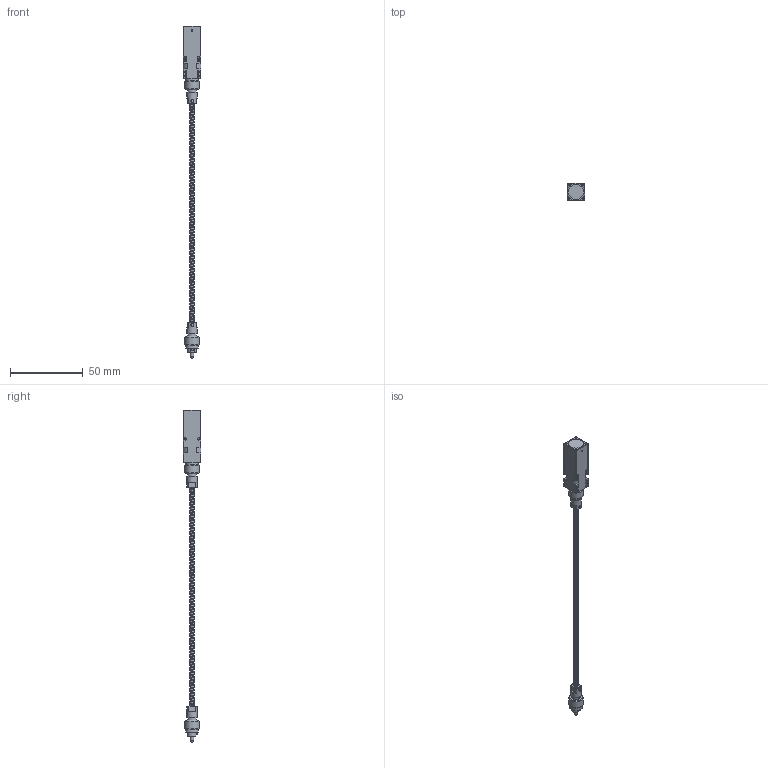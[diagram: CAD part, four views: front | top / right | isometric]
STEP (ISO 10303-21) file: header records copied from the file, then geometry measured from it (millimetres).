
FILE_DESCRIPTION(/* description */ ('IFS2407-2HT/VAC'),/* implementation_level */ '2;1');
FILE_NAME(/* name */ '104317_IFS2407-2HT-VAC_step.stp',/* time_stamp */ '2025-11-21T13:21:02+01:00',/* author */ ('S.Flämig'),/* organization */ (''),/* preprocessor_version */ 'ST-DEVELOPER v20.1',/* originating_system */ 'Autodesk Inventor 2026',/* authorisation */ '');
FILE_SCHEMA (('AUTOMOTIVE_DESIGN { 1 0 10303 214 3 1 1 }'));
Products named in the file (5): 104317_IFS2407-2HT-VAC_step; Z_104335.00_Fassung; DIN 914 - M2 x 3; 90010378-1CUS_HTFaser; Linse
Assembly tree (12 placements, depth 2):
  104317_IFS2407-2HT-VAC_step
    Z_104335.00_Fassung
    DIN 914 - M2 x 3  x9
    90010378-1CUS_HTFaser
    Linse
Bounding box: 12 x 12 x 228.21 mm (x, y, z)
Volume: 7328.6 mm3; surface area: 9334.3 mm2
Topology: 12 solids, 12 shells, 244 faces, 634 edges, 416 vertices
Faces by surface type: plane 119, cylinder 70, cone 47, bspline 8
Full cylindrical faces by diameter (mm): 1.183 x4, 1.2 x1, 1.5 x4, 1.567 x16, 2 x11, 2.5 x2, 6 x2, 7 x2, 8.8 x2, 10 x2, 10.6 x1, 11.2 x2
Entity records: 42950 total; most frequent: CARTESIAN_POINT 38745, ORIENTED_EDGE 808, DIRECTION 777, EDGE_CURVE 404, AXIS2_PLACEMENT_3D 295, VERTEX_POINT 272, EDGE_LOOP 216, LINE 187
